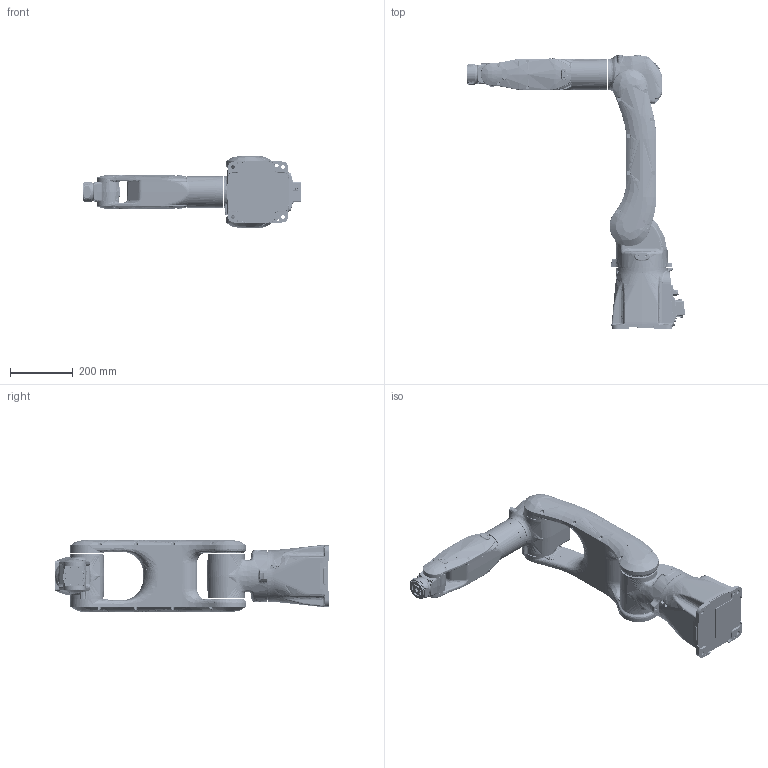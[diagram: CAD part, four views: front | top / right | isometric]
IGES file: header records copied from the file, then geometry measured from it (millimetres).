
Global section: file name: V:\v\Moto\000_gp7\Fertig\000_gp7.igs; native system: NX V10.0; preprocessor: SIEMENS PLM Software NX 10.0; date: 20161102.103237; units: millimetre
Bounding box: 697.33 x 878.23 x 230 mm (x, y, z)
Surface area: 1140168.9 mm2 (no closed solid volume)
Topology: 0 solids, 0 shells, 4381 faces, 34801 edges, 34466 vertices
Faces by surface type: bspline 4381
